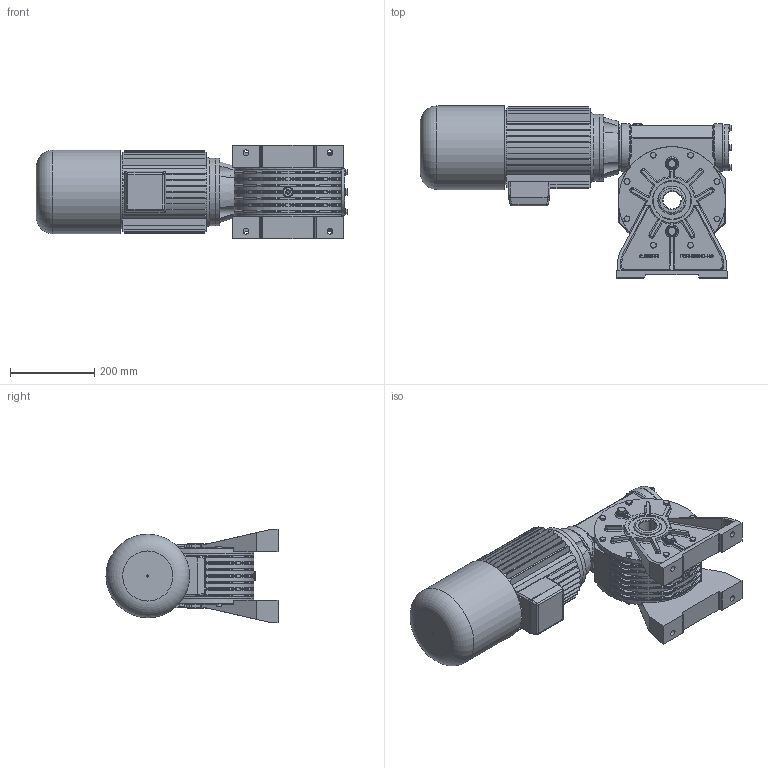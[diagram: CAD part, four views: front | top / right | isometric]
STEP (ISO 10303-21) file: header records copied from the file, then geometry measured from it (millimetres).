
FILE_DESCRIPTION((''),'2;1');
FILE_NAME('Y:\Archivi Inventor\Prog_01\GRAND_60\FIGURINI\MRV60 sito\100L AUTOFRENANTE\MRV60_P2_100L_B14.stp','2013-02-08T14:29:18',('tech3'),(''),'Autodesk Inventor 2013','Autodesk Inventor 2013','');
FILE_SCHEMA(('AUTOMOTIVE_DESIGN { 1 0 10303 214 1 1 1 1 }'));
Length unit declared in the file: millimetre
Products named in the file (18): MRV60_100L_112M_B14; MRV60_FIG; 0106001.A0 figurino; 0106010.A0 figurino; 0106009; UNI 5739 M8 x 20; figurino corona; PARAOLIO 65x90x10; 0106028; 0106029; UNI 5739 M8 x 25; Guarnizione 3_8 GAS; Tappo3_8 GAS; Tappo 3_8 GAS_esagn_incsst; DIN EN ISO 4762 M8 x 16; UNI 8839 A 8; 0106006; motori B14 brake 100
Assembly tree (53 placements, depth 3):
  MRV60_100L_112M_B14
    MRV60_FIG
      0106001.A0 figurino
      0106010.A0 figurino  x2
      0106009
      UNI 5739 M8 x 20  x4
      figurino corona
      PARAOLIO 65x90x10  x2
      0106028
      0106029  x2
      UNI 5739 M8 x 25  x8
      Guarnizione 3_8 GAS  x6
      Tappo3_8 GAS  x4
      Tappo 3_8 GAS_esagn_incsst  x2
      DIN EN ISO 4762 M8 x 16  x12
      UNI 8839 A 8  x4
    0106006
    motori B14 brake 100
Bounding box: 741.35 x 409.5 x 221.7 mm (x, y, z)
Volume: 15595688.6 mm3; surface area: 1668579 mm2
Topology: 53 solids, 57 shells, 2669 faces, 6580 edges, 4056 vertices
Faces by surface type: plane 1160, cylinder 611, bspline 564, cone 161, torus 125, sphere 48
Full cylindrical faces by diameter (mm): 2 x2, 5 x1, 6.647 x28, 8 x26, 8.5 x40, 8.75 x4, 9 x4, 11.63 x12, 13 x12, 13.046 x4, 14 x4, 14.95 x6, 16.3 x6, 16.5 x2, 22 x12, 25 x6, 28 x1, 42 x1, 65 x2, 70 x1, 72.881 x2, 80 x5, 83.5 x2, 90 x5, 109 x1, 109.5 x1, 110 x6, 114 x2, 160 x2, 175.12 x1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
Entity records: 57993 total; most frequent: CARTESIAN_POINT 19445, ORIENTED_EDGE 7830, DIRECTION 7183, EDGE_CURVE 3915, AXIS2_PLACEMENT_3D 2648, VERTEX_POINT 2524, EDGE_LOOP 2001, VECTOR 1887
